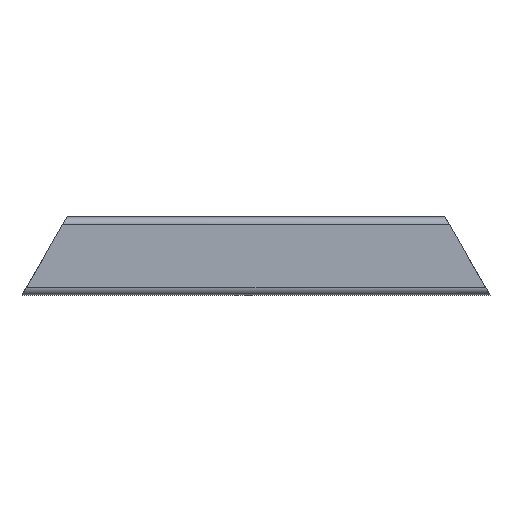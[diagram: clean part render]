
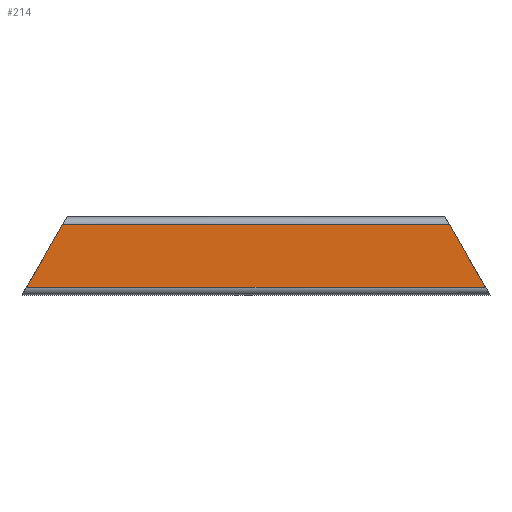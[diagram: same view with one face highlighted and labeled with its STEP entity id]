
A CAD part, front view. The second image highlights one B-rep face of the part: STEP entity #214.
In plain terms, the highlighted planar face has unit normal (0, -1, 0).
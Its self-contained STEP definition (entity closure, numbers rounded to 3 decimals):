
#14 = VECTOR ( 'NONE', #167, 1000. ) ;
#20 = EDGE_CURVE ( 'NONE', #517, #327, #585, .T. ) ;
#26 = CARTESIAN_POINT ( 'NONE',  ( -90., 0., 32.698 ) ) ;
#33 = FACE_OUTER_BOUND ( 'NONE', #561, .T. ) ;
#37 = EDGE_CURVE ( 'NONE', #43, #369, #264, .T. ) ;
#43 = VERTEX_POINT ( 'NONE', #345 ) ;
#65 = DIRECTION ( 'NONE',  ( -0.5, 0., -0.866 ) ) ;
#86 = AXIS2_PLACEMENT_3D ( 'NONE', #222, #403, #380 ) ;
#108 = LINE ( 'NONE', #26, #116 ) ;
#116 = VECTOR ( 'NONE', #210, 1000. ) ;
#151 = ORIENTED_EDGE ( 'NONE', *, *, #20, .T. ) ;
#167 = DIRECTION ( 'NONE',  ( -0.5, 0., 0.866 ) ) ;
#195 = ORIENTED_EDGE ( 'NONE', *, *, #37, .T. ) ;
#197 = CARTESIAN_POINT ( 'NONE',  ( -88.268, 0., 32.698 ) ) ;
#210 = DIRECTION ( 'NONE',  ( 1., 0., 0. ) ) ;
#214 = ADVANCED_FACE ( 'NONE', ( #33 ), #229, .T. ) ;
#215 = ORIENTED_EDGE ( 'NONE', *, *, #581, .T. ) ;
#220 = VECTOR ( 'NONE', #370, 1000. ) ;
#222 = CARTESIAN_POINT ( 'NONE',  ( -90., 0., 59.698 ) ) ;
#229 = PLANE ( 'NONE',  #86 ) ;
#258 = CARTESIAN_POINT ( 'NONE',  ( 32.01, 0., 130.141 ) ) ;
#264 = LINE ( 'NONE', #258, #14 ) ;
#280 = CARTESIAN_POINT ( 'NONE',  ( -90., 0., 56.698 ) ) ;
#327 = VERTEX_POINT ( 'NONE', #197 ) ;
#345 = CARTESIAN_POINT ( 'NONE',  ( 88.268, 0., 32.698 ) ) ;
#363 = EDGE_CURVE ( 'NONE', #327, #43, #108, .T. ) ;
#369 = VERTEX_POINT ( 'NONE', #575 ) ;
#370 = DIRECTION ( 'NONE',  ( -1., 0., 0. ) ) ;
#380 = DIRECTION ( 'NONE',  ( 0., 0., -1. ) ) ;
#403 = DIRECTION ( 'NONE',  ( 0., -1., 0. ) ) ;
#408 = CARTESIAN_POINT ( 'NONE',  ( -74.412, 0., 56.698 ) ) ;
#425 = CARTESIAN_POINT ( 'NONE',  ( -77.01, 0., 52.198 ) ) ;
#463 = LINE ( 'NONE', #280, #220 ) ;
#511 = VECTOR ( 'NONE', #65, 1000. ) ;
#517 = VERTEX_POINT ( 'NONE', #408 ) ;
#525 = ORIENTED_EDGE ( 'NONE', *, *, #363, .T. ) ;
#561 = EDGE_LOOP ( 'NONE', ( #195, #215, #151, #525 ) ) ;
#575 = CARTESIAN_POINT ( 'NONE',  ( 74.412, 0., 56.698 ) ) ;
#581 = EDGE_CURVE ( 'NONE', #369, #517, #463, .T. ) ;
#585 = LINE ( 'NONE', #425, #511 ) ;
